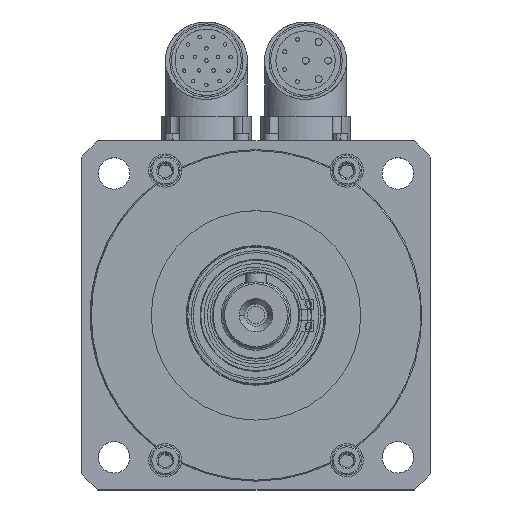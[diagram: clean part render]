
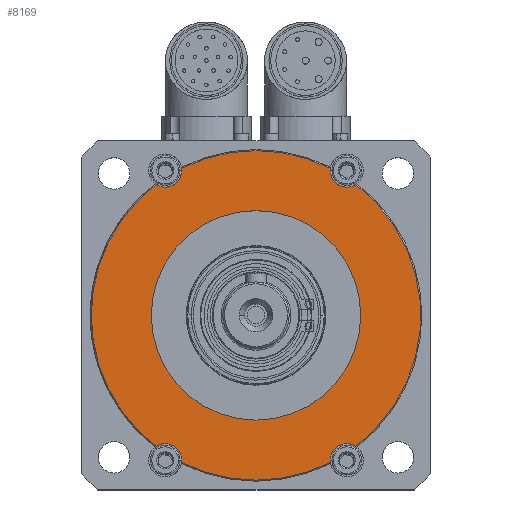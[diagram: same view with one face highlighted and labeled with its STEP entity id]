
A CAD part, top view. The second image highlights one B-rep face of the part: STEP entity #8169.
In plain terms, the highlighted planar face has unit normal (0, 0, 1).
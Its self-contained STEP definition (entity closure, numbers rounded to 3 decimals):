
#1245 = CIRCLE ( 'NONE', #2105, 4.75 ) ;
#1257 = CIRCLE ( 'NONE', #2118, 4.75 ) ;
#1308 = CIRCLE ( 'NONE', #2139, 4.75 ) ;
#1316 = CIRCLE ( 'NONE', #2146, 4.75 ) ;
#1455 = FACE_OUTER_BOUND ( 'NONE', #2746, .T. ) ;
#1461 = FACE_BOUND ( 'NONE', #2718, .T. ) ;
#2093 = AXIS2_PLACEMENT_3D ( 'NONE', #13744, #13745, #13746 ) ;
#2095 = AXIS2_PLACEMENT_3D ( 'NONE', #13752, #13754, #13755 ) ;
#2105 = AXIS2_PLACEMENT_3D ( 'NONE', #13937, #13938, #13939 ) ;
#2118 = AXIS2_PLACEMENT_3D ( 'NONE', #13957, #13960, #13961 ) ;
#2139 = AXIS2_PLACEMENT_3D ( 'NONE', #14123, #14133, #14134 ) ;
#2146 = AXIS2_PLACEMENT_3D ( 'NONE', #14145, #14154, #14155 ) ;
#2240 = AXIS2_PLACEMENT_3D ( 'NONE', #6464, #6469, #6470 ) ;
#2718 = EDGE_LOOP ( 'NONE', ( #7160, #7161 ) ) ;
#2746 = EDGE_LOOP ( 'NONE', ( #7147, #7148, #7149, #7150, #7151, #7152, #7153, #7154, #7155, #7156, #7157, #7158, #7159 ) ) ;
#4176 = EDGE_CURVE ( 'NONE', #7942, #7943, #12510, .T. ) ;
#4179 = EDGE_CURVE ( 'NONE', #7943, #7942, #12516, .T. ) ;
#4218 = EDGE_CURVE ( 'NONE', #7923, #7925, #1245, .T. ) ;
#4226 = EDGE_CURVE ( 'NONE', #7911, #7912, #1257, .T. ) ;
#4275 = EDGE_CURVE ( 'NONE', #7849, #7850, #1308, .T. ) ;
#4282 = EDGE_CURVE ( 'NONE', #7837, #7838, #1316, .T. ) ;
#6126 = CARTESIAN_POINT ( 'NONE',  ( -21.25, -41.5, 20. ) ) ;
#6135 = CARTESIAN_POINT ( 'NONE',  ( -28.617, 37.536, 20. ) ) ;
#6136 = CARTESIAN_POINT ( 'NONE',  ( -21.25, 41.5, 20. ) ) ;
#6139 = CARTESIAN_POINT ( 'NONE',  ( -47.2, 0., 20. ) ) ;
#6140 = CARTESIAN_POINT ( 'NONE',  ( -28.617, -37.536, 20. ) ) ;
#6197 = CARTESIAN_POINT ( 'NONE',  ( 21.25, 41.5, 20. ) ) ;
#6198 = CARTESIAN_POINT ( 'NONE',  ( 28.617, 37.536, 20. ) ) ;
#6209 = CARTESIAN_POINT ( 'NONE',  ( 21.25, -41.5, 20. ) ) ;
#6211 = CARTESIAN_POINT ( 'NONE',  ( 21.291, -42.125, 20. ) ) ;
#6228 = CARTESIAN_POINT ( 'NONE',  ( -30., 0., 20. ) ) ;
#6229 = CARTESIAN_POINT ( 'NONE',  ( 30., 0., 20. ) ) ;
#6250 = CARTESIAN_POINT ( 'NONE',  ( 21.291, 42.125, 20. ) ) ;
#6254 = CARTESIAN_POINT ( 'NONE',  ( -21.291, 42.125, 20. ) ) ;
#6271 = CARTESIAN_POINT ( 'NONE',  ( 28.617, -37.536, 20. ) ) ;
#6463 = PLANE ( 'NONE',  #2240 ) ;
#6464 = CARTESIAN_POINT ( 'NONE',  ( -50., 50., 20. ) ) ;
#6469 = DIRECTION ( 'NONE',  ( 0., 0., 1. ) ) ;
#6470 = DIRECTION ( 'NONE',  ( 1., 0., 0. ) ) ;
#7147 = ORIENTED_EDGE ( 'NONE', *, *, #4275, .F. ) ;
#7148 = ORIENTED_EDGE ( 'NONE', *, *, #12564, .T. ) ;
#7149 = ORIENTED_EDGE ( 'NONE', *, *, #12592, .T. ) ;
#7150 = ORIENTED_EDGE ( 'NONE', *, *, #12570, .F. ) ;
#7151 = ORIENTED_EDGE ( 'NONE', *, *, #4282, .F. ) ;
#7152 = ORIENTED_EDGE ( 'NONE', *, *, #12685, .T. ) ;
#7153 = ORIENTED_EDGE ( 'NONE', *, *, #4218, .F. ) ;
#7154 = ORIENTED_EDGE ( 'NONE', *, *, #12680, .F. ) ;
#7155 = ORIENTED_EDGE ( 'NONE', *, *, #12678, .T. ) ;
#7156 = ORIENTED_EDGE ( 'NONE', *, *, #4226, .F. ) ;
#7157 = ORIENTED_EDGE ( 'NONE', *, *, #12683, .F. ) ;
#7158 = ORIENTED_EDGE ( 'NONE', *, *, #9047, .T. ) ;
#7159 = ORIENTED_EDGE ( 'NONE', *, *, #12559, .F. ) ;
#7160 = ORIENTED_EDGE ( 'NONE', *, *, #4179, .F. ) ;
#7161 = ORIENTED_EDGE ( 'NONE', *, *, #4176, .F. ) ;
#7837 = VERTEX_POINT ( 'NONE', #14323 ) ;
#7838 = VERTEX_POINT ( 'NONE', #6126 ) ;
#7849 = VERTEX_POINT ( 'NONE', #6135 ) ;
#7850 = VERTEX_POINT ( 'NONE', #6136 ) ;
#7853 = VERTEX_POINT ( 'NONE', #6139 ) ;
#7854 = VERTEX_POINT ( 'NONE', #6140 ) ;
#7911 = VERTEX_POINT ( 'NONE', #6197 ) ;
#7912 = VERTEX_POINT ( 'NONE', #6198 ) ;
#7923 = VERTEX_POINT ( 'NONE', #6209 ) ;
#7925 = VERTEX_POINT ( 'NONE', #6211 ) ;
#7942 = VERTEX_POINT ( 'NONE', #6228 ) ;
#7943 = VERTEX_POINT ( 'NONE', #6229 ) ;
#7964 = VERTEX_POINT ( 'NONE', #6250 ) ;
#7968 = VERTEX_POINT ( 'NONE', #6254 ) ;
#7985 = VERTEX_POINT ( 'NONE', #6271 ) ;
#8169 = ADVANCED_FACE ( 'NONE', ( #1455, #1461 ), #6463, .T. ) ;
#8295 = CARTESIAN_POINT ( 'NONE',  ( -26., 41.5, 20. ) ) ;
#8307 = DIRECTION ( 'NONE',  ( 0., 0., 1. ) ) ;
#8308 = DIRECTION ( 'NONE',  ( 1., 0., 0. ) ) ;
#8332 = CARTESIAN_POINT ( 'NONE',  ( 0., 0., 20. ) ) ;
#8335 = DIRECTION ( 'NONE',  ( 0., 0., 1. ) ) ;
#8337 = DIRECTION ( 'NONE',  ( 1., 0., 0. ) ) ;
#8344 = CARTESIAN_POINT ( 'NONE',  ( -26., -41.5, 20. ) ) ;
#8365 = DIRECTION ( 'NONE',  ( 0., 0., 1. ) ) ;
#8367 = DIRECTION ( 'NONE',  ( 1., 0., 0. ) ) ;
#8492 = CARTESIAN_POINT ( 'NONE',  ( 0., 0., 20. ) ) ;
#8494 = DIRECTION ( 'NONE',  ( 0., 0., 1. ) ) ;
#8495 = DIRECTION ( 'NONE',  ( 1., 0., 0. ) ) ;
#8686 = CARTESIAN_POINT ( 'NONE',  ( 0., 0., 20. ) ) ;
#8699 = CARTESIAN_POINT ( 'NONE',  ( 26., -41.5, 20. ) ) ;
#8703 = DIRECTION ( 'NONE',  ( 0., 0., 1. ) ) ;
#8704 = DIRECTION ( 'NONE',  ( 1., 0., 0. ) ) ;
#8708 = DIRECTION ( 'NONE',  ( 0., 0., 1. ) ) ;
#8709 = DIRECTION ( 'NONE',  ( 1., 0., 0. ) ) ;
#8710 = CARTESIAN_POINT ( 'NONE',  ( 26., 41.5, 20. ) ) ;
#8716 = CARTESIAN_POINT ( 'NONE',  ( 0., 0., 20. ) ) ;
#8717 = DIRECTION ( 'NONE',  ( 0., 0., 1. ) ) ;
#8718 = DIRECTION ( 'NONE',  ( 1., 0., 0. ) ) ;
#8722 = DIRECTION ( 'NONE',  ( 0., 0., 1. ) ) ;
#8723 = DIRECTION ( 'NONE',  ( 1., 0., 0. ) ) ;
#9047 = EDGE_CURVE ( 'NONE', #7964, #7968, #15117, .T. ) ;
#9542 = CIRCLE ( 'NONE', #9782, 4.75 ) ;
#9548 = CIRCLE ( 'NONE', #9780, 47.2 ) ;
#9557 = CIRCLE ( 'NONE', #9790, 4.75 ) ;
#9642 = AXIS2_PLACEMENT_3D ( 'NONE', #10556, #10569, #10570 ) ;
#9780 = AXIS2_PLACEMENT_3D ( 'NONE', #8332, #8335, #8337 ) ;
#9782 = AXIS2_PLACEMENT_3D ( 'NONE', #8295, #8307, #8308 ) ;
#9790 = AXIS2_PLACEMENT_3D ( 'NONE', #8344, #8365, #8367 ) ;
#9803 = AXIS2_PLACEMENT_3D ( 'NONE', #8492, #8494, #8495 ) ;
#9835 = AXIS2_PLACEMENT_3D ( 'NONE', #8686, #8703, #8704 ) ;
#9838 = AXIS2_PLACEMENT_3D ( 'NONE', #8699, #8708, #8709 ) ;
#9840 = AXIS2_PLACEMENT_3D ( 'NONE', #8710, #8717, #8718 ) ;
#9842 = AXIS2_PLACEMENT_3D ( 'NONE', #8716, #8722, #8723 ) ;
#10556 = CARTESIAN_POINT ( 'NONE',  ( 0., 0., 20. ) ) ;
#10569 = DIRECTION ( 'NONE',  ( 0., 0., 1. ) ) ;
#10570 = DIRECTION ( 'NONE',  ( 1., 0., 0. ) ) ;
#12510 = CIRCLE ( 'NONE', #2093, 30. ) ;
#12516 = CIRCLE ( 'NONE', #2095, 30. ) ;
#12559 = EDGE_CURVE ( 'NONE', #7850, #7968, #9542, .T. ) ;
#12564 = EDGE_CURVE ( 'NONE', #7849, #7853, #9548, .T. ) ;
#12570 = EDGE_CURVE ( 'NONE', #7838, #7854, #9557, .T. ) ;
#12592 = EDGE_CURVE ( 'NONE', #7853, #7854, #16394, .T. ) ;
#12678 = EDGE_CURVE ( 'NONE', #7985, #7912, #16528, .T. ) ;
#12680 = EDGE_CURVE ( 'NONE', #7985, #7923, #16529, .T. ) ;
#12683 = EDGE_CURVE ( 'NONE', #7964, #7911, #16535, .T. ) ;
#12685 = EDGE_CURVE ( 'NONE', #7837, #7925, #16539, .T. ) ;
#13744 = CARTESIAN_POINT ( 'NONE',  ( 0., 0., 20. ) ) ;
#13745 = DIRECTION ( 'NONE',  ( 0., 0., 1. ) ) ;
#13746 = DIRECTION ( 'NONE',  ( 1., 0., 0. ) ) ;
#13752 = CARTESIAN_POINT ( 'NONE',  ( 0., 0., 20. ) ) ;
#13754 = DIRECTION ( 'NONE',  ( 0., 0., 1. ) ) ;
#13755 = DIRECTION ( 'NONE',  ( 1., 0., 0. ) ) ;
#13937 = CARTESIAN_POINT ( 'NONE',  ( 26., -41.5, 20. ) ) ;
#13938 = DIRECTION ( 'NONE',  ( 0., 0., 1. ) ) ;
#13939 = DIRECTION ( 'NONE',  ( 1., 0., 0. ) ) ;
#13957 = CARTESIAN_POINT ( 'NONE',  ( 26., 41.5, 20. ) ) ;
#13960 = DIRECTION ( 'NONE',  ( 0., 0., 1. ) ) ;
#13961 = DIRECTION ( 'NONE',  ( 1., 0., 0. ) ) ;
#14123 = CARTESIAN_POINT ( 'NONE',  ( -26., 41.5, 20. ) ) ;
#14133 = DIRECTION ( 'NONE',  ( 0., 0., 1. ) ) ;
#14134 = DIRECTION ( 'NONE',  ( 1., 0., 0. ) ) ;
#14145 = CARTESIAN_POINT ( 'NONE',  ( -26., -41.5, 20. ) ) ;
#14154 = DIRECTION ( 'NONE',  ( 0., 0., 1. ) ) ;
#14155 = DIRECTION ( 'NONE',  ( 1., 0., 0. ) ) ;
#14323 = CARTESIAN_POINT ( 'NONE',  ( -21.291, -42.125, 20. ) ) ;
#15117 = CIRCLE ( 'NONE', #9642, 47.2 ) ;
#16394 = CIRCLE ( 'NONE', #9803, 47.2 ) ;
#16528 = CIRCLE ( 'NONE', #9835, 47.2 ) ;
#16529 = CIRCLE ( 'NONE', #9838, 4.75 ) ;
#16535 = CIRCLE ( 'NONE', #9840, 4.75 ) ;
#16539 = CIRCLE ( 'NONE', #9842, 47.2 ) ;
